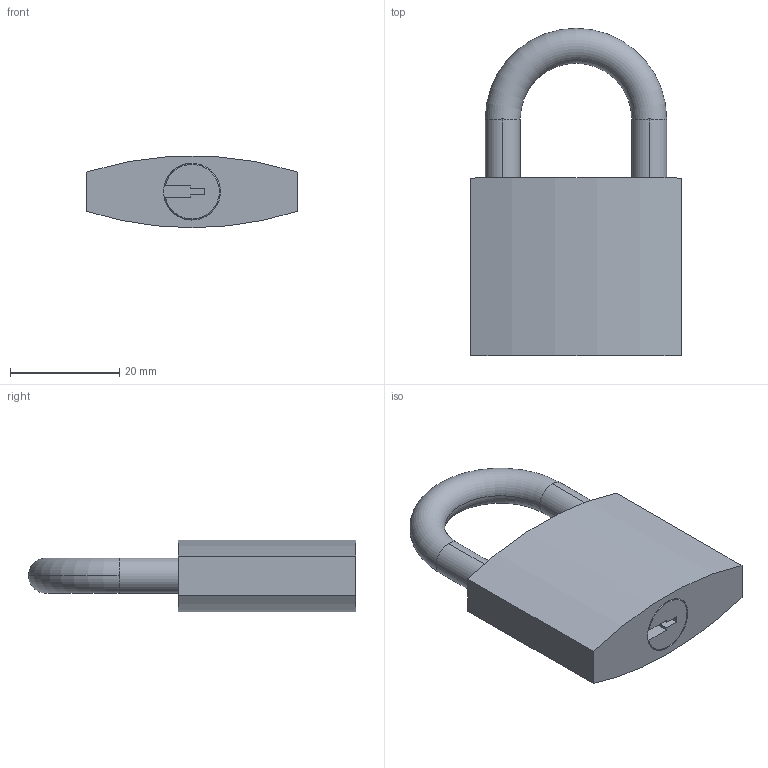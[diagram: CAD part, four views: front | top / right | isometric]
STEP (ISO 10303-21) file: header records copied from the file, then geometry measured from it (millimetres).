
FILE_DESCRIPTION (( 'STEP AP214' ), '1' );
FILE_NAME ('ELN-1000-40.STEP', '2016-01-28T18:33:25', ( '' ), ( '' ), 'SwSTEP 2.0', 'SolidWorks 2012', '' );
FILE_SCHEMA (( 'AUTOMOTIVE_DESIGN' ));
Length unit declared in the file: millimetre
Products named in the file (1): ELN-1000-40
Bounding box: 38.5 x 59.9 x 13.08 mm (x, y, z)
Volume: 16045.3 mm3; surface area: 5157.2 mm2
Topology: 1 solids, 1 shells, 27 faces, 70 edges, 46 vertices
Faces by surface type: plane 13, cylinder 9, cone 3, torus 2
Entity records: 877 total; most frequent: DIRECTION 153, CARTESIAN_POINT 150, ORIENTED_EDGE 140, EDGE_CURVE 70, AXIS2_PLACEMENT_3D 57, VERTEX_POINT 46, VECTOR 39, LINE 39
